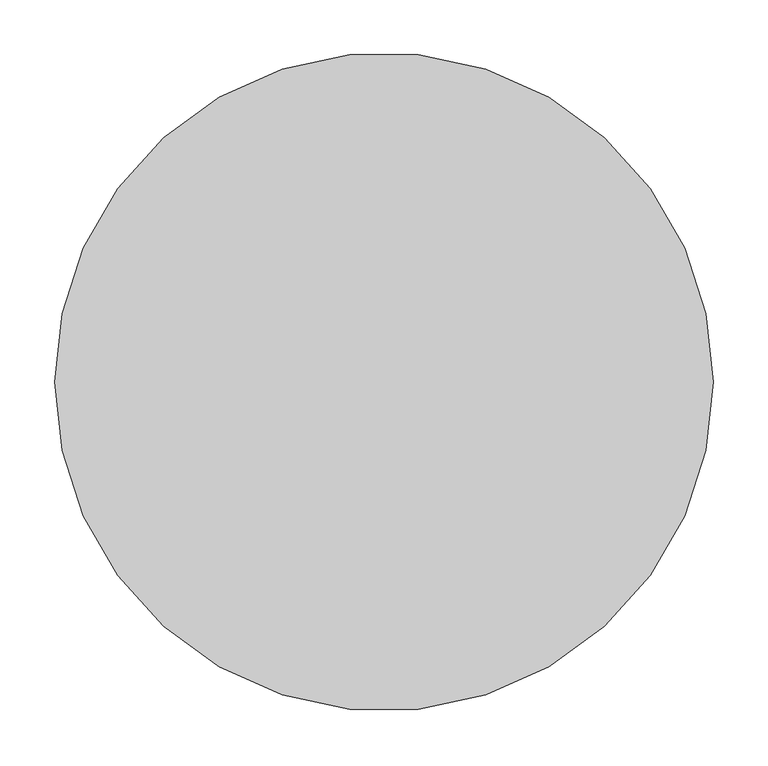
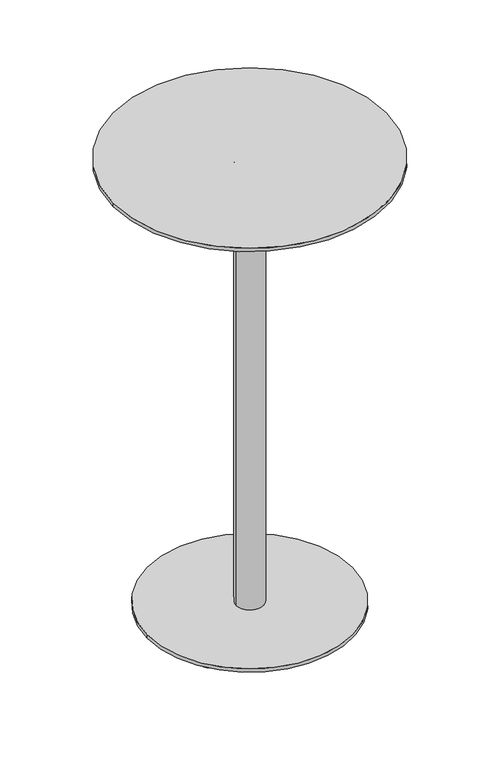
"""IFC4 building model written with IfcOpenShell, lengths in millimetres: furniture geometry, Vestre - Munch Table - 5137 : Vestre - Munch Table - 5137."""

from ifc_helpers import new_model, si_unit, point, frame, frame_2d, origin, origin_with_axes, origin_2d, place, context, project, spatial, circle_curve, trimmed, segment, composite_curve, outline, extrude, source, transform, mapped, element, save


def furniture_1ec12105(model_context):
    return source(origin(), model_context, "Body", "SweptSolid", [
        extrude(outline(composite_curve([segment(trimmed(circle_curve(origin_2d(), 300.0), [point((-300.0, 0.0))], [point((300.0, 0.0))], False, "CARTESIAN"), True, "CONTINUOUS"), segment(trimmed(circle_curve(origin_2d(), 300.0), [point((300.0, 0.0))], [point((-300.0, 0.0))], False, "CARTESIAN"), True, "CONTINUOUS")], self_intersect=False)), frame((0.0, 0.0, 1041.85), z_axis=(0.0, 0.0, 1.0), x_axis=(1.0, 0.0, 0.0)), (0.0, 0.0, 1.0), 7.85),
        extrude(outline(composite_curve([segment(trimmed(circle_curve(frame_2d((-153.9130034, -111.52459)), 19.0), [point((-172.9130034, -111.52459))], [point((-134.9130034, -111.52459))], False, "CARTESIAN"), True, "CONTINUOUS"), segment(trimmed(circle_curve(frame_2d((-153.9130034, -111.52459)), 19.0), [point((-134.9130034, -111.52459))], [point((-172.9130034, -111.52459))], False, "CARTESIAN"), True, "CONTINUOUS")], self_intersect=False)), origin_with_axes(), (0.0, 0.0, 1.0), 12.0),
        extrude(outline(composite_curve([segment(trimmed(circle_curve(frame_2d((58.5136425, -181.3237178)), 19.0), [point((77.5136425, -181.3237178))], [point((39.5136425, -181.3237178))], False, "CARTESIAN"), True, "CONTINUOUS"), segment(trimmed(circle_curve(frame_2d((58.5136425, -181.3237178)), 19.0), [point((39.5136425, -181.3237178))], [point((77.5136425, -181.3237178))], False, "CARTESIAN"), True, "CONTINUOUS")], self_intersect=False)), origin_with_axes(), (0.0, 0.0, 1.0), 12.0),
        extrude(outline(composite_curve([segment(trimmed(circle_curve(frame_2d((190.1702104, -0.1697648)), 19.0), [point((209.1702104, -0.1697648))], [point((171.1702104, -0.1697648))], False, "CARTESIAN"), True, "CONTINUOUS"), segment(trimmed(circle_curve(frame_2d((190.1702104, -0.1697648)), 19.0), [point((171.1702104, -0.1697648))], [point((209.1702104, -0.1697648))], False, "CARTESIAN"), True, "CONTINUOUS")], self_intersect=False)), origin_with_axes(), (0.0, 0.0, 1.0), 12.0),
        extrude(outline(composite_curve([segment(trimmed(circle_curve(frame_2d((58.6453704, 180.7101814)), 19.0), [point((77.6453704, 180.7101814))], [point((39.6453704, 180.7101814))], False, "CARTESIAN"), True, "CONTINUOUS"), segment(trimmed(circle_curve(frame_2d((58.6453704, 180.7101814)), 19.0), [point((39.6453704, 180.7101814))], [point((77.6453704, 180.7101814))], False, "CARTESIAN"), True, "CONTINUOUS")], self_intersect=False)), origin_with_axes(), (0.0, 0.0, 1.0), 12.0),
        extrude(outline(composite_curve([segment(trimmed(circle_curve(frame_2d((-153.730807, 111.6727884)), 19.0), [point((-134.730807, 111.6727884))], [point((-172.730807, 111.6727884))], False, "CARTESIAN"), True, "CONTINUOUS"), segment(trimmed(circle_curve(frame_2d((-153.730807, 111.6727884)), 19.0), [point((-172.730807, 111.6727884))], [point((-134.730807, 111.6727884))], False, "CARTESIAN"), True, "CONTINUOUS")], self_intersect=False)), origin_with_axes(), (0.0, 0.0, 1.0), 12.0),
        extrude(outline(composite_curve([segment(trimmed(circle_curve(origin_2d(), 225.0), [point((-225.0, 0.0))], [point((225.0, 0.0))], False, "CARTESIAN"), True, "CONTINUOUS"), segment(trimmed(circle_curve(origin_2d(), 225.0), [point((225.0, 0.0))], [point((-225.0, 0.0))], False, "CARTESIAN"), True, "CONTINUOUS")], self_intersect=False)), frame((0.0, 0.0, 12.0), z_axis=(0.0, 0.0, 1.0), x_axis=(1.0, 0.0, 0.0)), (0.0, 0.0, 1.0), 7.85),
        extrude(outline(composite_curve([segment(trimmed(circle_curve(origin_2d(), 30.15), [point((-30.15, 0.0))], [point((30.15, 0.0))], False, "CARTESIAN"), True, "CONTINUOUS"), segment(trimmed(circle_curve(origin_2d(), 30.15), [point((30.15, 0.0))], [point((-30.15, 0.0))], False, "CARTESIAN"), True, "CONTINUOUS")], self_intersect=False)), frame((0.0, 0.0, 19.85), z_axis=(0.0, 0.0, 1.0), x_axis=(1.0, 0.0, 0.0)), (0.0, 0.0, 1.0), 1022.0),
    ])


if __name__ == "__main__":
    model = new_model("IFC4")
    model_context = context("Model", 3, world=origin())
    ifc_project = project(units=[si_unit("LENGTHUNIT", "METRE", prefix="MILLI")], contexts=[model_context])
    site = spatial("IfcSite", under=ifc_project)
    building = spatial("IfcBuilding", under=site)
    placement = place(None, origin())
    furniture_shape = furniture_1ec12105(model_context)
    element("IfcFurniture", 1, ObjectType="Vestre - Munch Table - 5137 : Vestre - Munch Table - 5137", at=placement, inside=building, context=model_context, shape_type="MappedRepresentation", body=[
        mapped(furniture_shape, transform((0.0, 0.0, 0.0), x_axis=(1.0, 0.0, 0.0), y_axis=(0.0, 1.0, 0.0), z_axis=(0.0, 0.0, 1.0))),
    ])
    save(model, "model.ifc")
